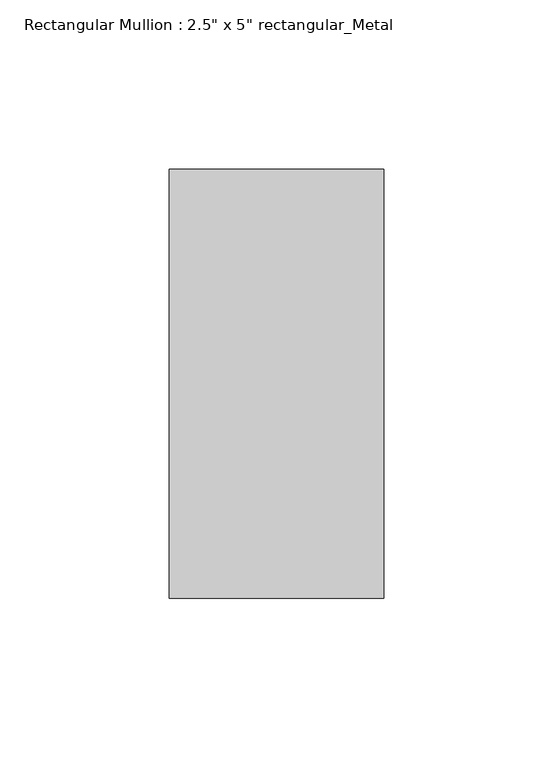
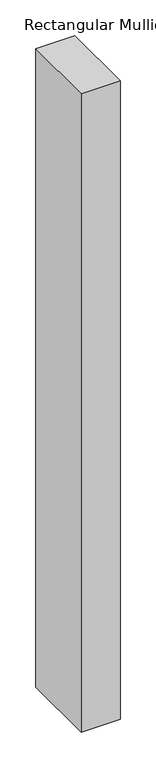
"""IFC4 building model written with IfcOpenShell, lengths in millimetres: member geometry."""

from ifc_helpers import new_model, si_unit, frame, origin, place, context, project, spatial, polyline, outline, extrude, source, transform, mapped, element, save


def member_273a15f2(model_context):
    return source(origin(), model_context, "Body", "SweptSolid", [
        extrude(outline(polyline([(0.0, 63.5), (0.0, -63.5), (-63.5, -63.5), (-63.5, 63.5), (0.0, 63.5)])), frame((0.0, 0.0, -1092.2), z_axis=(0.0, 0.0, 1.0), x_axis=(1.0, 0.0, 0.0)), (0.0, 0.0, 1.0), 1092.2),
    ])


if __name__ == "__main__":
    model = new_model("IFC4")
    model_context = context("Model", 3, world=origin())
    ifc_project = project(units=[si_unit("LENGTHUNIT", "METRE", prefix="MILLI")], contexts=[model_context])
    site = spatial("IfcSite", under=ifc_project)
    building = spatial("IfcBuilding", under=site)
    placement = place(None, origin())
    member_shape = member_273a15f2(model_context)
    element("IfcMember", 1, ObjectType="Rectangular Mullion : 2.5\" x 5\" rectangular_Metal", at=placement, inside=building, context=model_context, shape_type="MappedRepresentation", body=[
        mapped(member_shape, transform((0.0, 0.0, 0.0), x_axis=(1.0, 0.0, 0.0), y_axis=(0.0, 1.0, 0.0), z_axis=(0.0, 0.0, 1.0))),
    ])
    save(model, "model.ifc")
